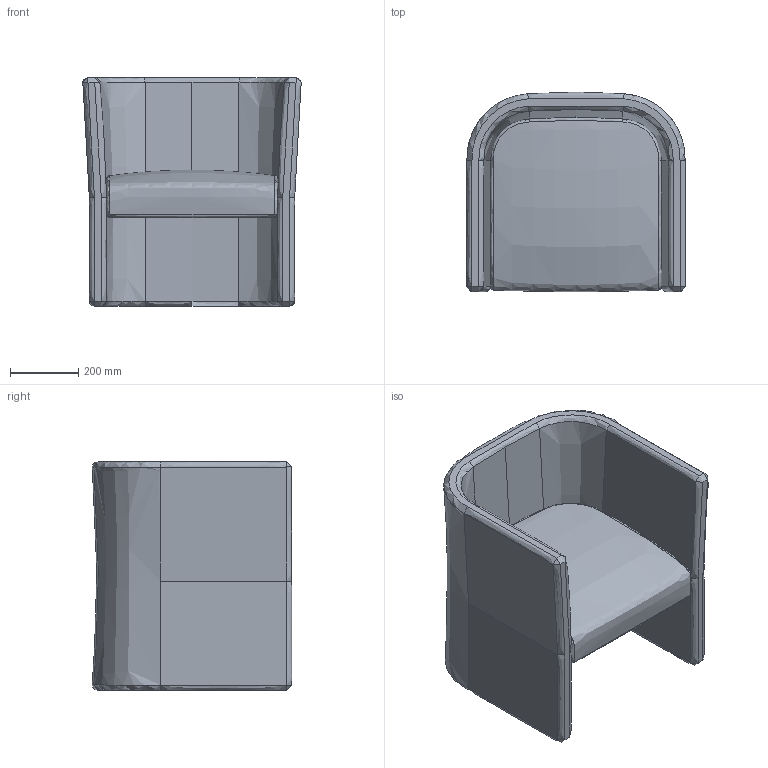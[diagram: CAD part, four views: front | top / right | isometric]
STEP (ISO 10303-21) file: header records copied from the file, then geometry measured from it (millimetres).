
FILE_DESCRIPTION(/* description */ (''),/* implementation_level */ '2;1');
FILE_NAME(/* name */ 'KINOSH~1',/* time_stamp */ '2019-07-19T11:13:58+09:00',/* author */ (''),/* organization */ (''),/* preprocessor_version */ 'ST-DEVELOPER v15',/* originating_system */ '',/* authorisation */ '');
FILE_SCHEMA (('AUTOMOTIVE_DESIGN'));
Length unit declared in the file: millimetre
Products named in the file (1): Document
Bounding box: 639.98 x 584.94 x 670 mm (x, y, z)
Surface area: 2904754.5 mm2 (no closed solid volume)
Topology: 0 solids, 2 shells, 89 faces, 226 edges, 114 vertices
Faces by surface type: bspline 78, plane 11
Entity records: 12055 total; most frequent: CARTESIAN_POINT 10880, ORIENTED_EDGE 394, EDGE_CURVE 214, B_SPLINE_CURVE_WITH_KNOTS 118, VERTEX_POINT 114, ADVANCED_FACE 89, FACE_OUTER_BOUND 89, EDGE_LOOP 89
